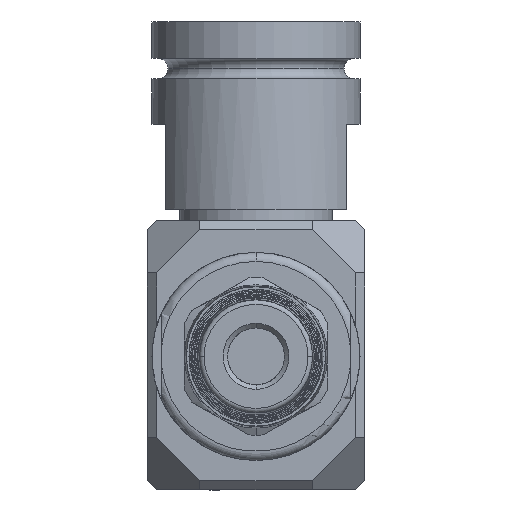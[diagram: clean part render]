
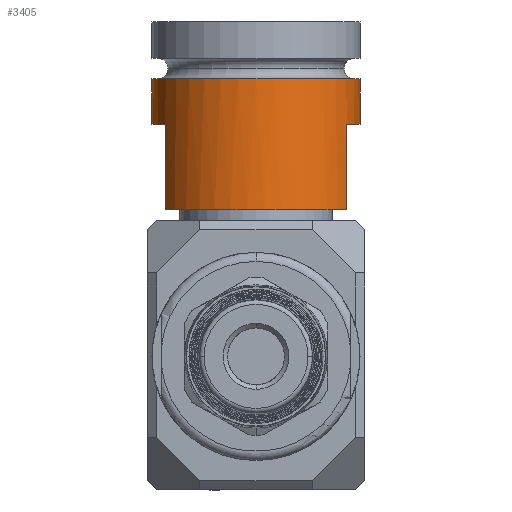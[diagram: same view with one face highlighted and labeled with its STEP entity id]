
A CAD part, front view. The second image highlights one B-rep face of the part: STEP entity #3405.
In plain terms, the highlighted cylindrical face has radius 11.62 mm (diameter 23.241 mm), a partial arc.
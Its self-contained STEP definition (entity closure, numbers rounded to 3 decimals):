
#140 = DIRECTION ( 'NONE',  ( 0., 0., -1. ) ) ;
#501 = DIRECTION ( 'NONE',  ( 0., 0., -1. ) ) ;
#806 = EDGE_CURVE ( 'NONE', #8135, #6362, #2698, .T. ) ;
#1244 = ORIENTED_EDGE ( 'NONE', *, *, #806, .T. ) ;
#1265 = CIRCLE ( 'NONE', #10958, 11.621 ) ;
#1318 = DIRECTION ( 'NONE',  ( 0., 0., -1. ) ) ;
#1359 = DIRECTION ( 'NONE',  ( 0., 0., -1. ) ) ;
#1703 = CARTESIAN_POINT ( 'NONE',  ( 11.621, 0., -2.972 ) ) ;
#2335 = CIRCLE ( 'NONE', #13476, 11.621 ) ;
#2698 = LINE ( 'NONE', #8548, #11541 ) ;
#2760 = CARTESIAN_POINT ( 'NONE',  ( -11.621, 0., -2.972 ) ) ;
#3405 = ADVANCED_FACE ( 'NONE', ( #5828 ), #3623, .T. ) ;
#3417 = EDGE_LOOP ( 'NONE', ( #9408, #8934, #4170, #1244, #11571, #3636, #11524, #5752 ) ) ;
#3623 = CYLINDRICAL_SURFACE ( 'NONE', #11565, 11.621 ) ;
#3636 = ORIENTED_EDGE ( 'NONE', *, *, #9069, .F. ) ;
#3767 = CARTESIAN_POINT ( 'NONE',  ( 0., 0., 8.458 ) ) ;
#3985 = DIRECTION ( 'NONE',  ( 1., 0., 0. ) ) ;
#4038 = CARTESIAN_POINT ( 'NONE',  ( -11.621, 0., 2.108 ) ) ;
#4170 = ORIENTED_EDGE ( 'NONE', *, *, #10419, .F. ) ;
#4660 = CARTESIAN_POINT ( 'NONE',  ( 10.16, -5.64, -2.972 ) ) ;
#4663 = CARTESIAN_POINT ( 'NONE',  ( 11.621, 0., 2.108 ) ) ;
#4775 = CARTESIAN_POINT ( 'NONE',  ( 11.621, 0., 8.458 ) ) ;
#4890 = EDGE_CURVE ( 'NONE', #12043, #5250, #14339, .T. ) ;
#4893 = EDGE_CURVE ( 'NONE', #8806, #9895, #1265, .T. ) ;
#5250 = VERTEX_POINT ( 'NONE', #4038 ) ;
#5638 = DIRECTION ( 'NONE',  ( 0., 0., -1. ) ) ;
#5752 = ORIENTED_EDGE ( 'NONE', *, *, #10374, .F. ) ;
#5828 = FACE_OUTER_BOUND ( 'NONE', #3417, .T. ) ;
#5866 = LINE ( 'NONE', #13761, #8747 ) ;
#6362 = VERTEX_POINT ( 'NONE', #11677 ) ;
#6590 = DIRECTION ( 'NONE',  ( 1., 0., 0. ) ) ;
#6903 = DIRECTION ( 'NONE',  ( -1., 0., 0. ) ) ;
#7321 = CARTESIAN_POINT ( 'NONE',  ( 0., 0., -2.972 ) ) ;
#7392 = EDGE_CURVE ( 'NONE', #5250, #7471, #5866, .T. ) ;
#7471 = VERTEX_POINT ( 'NONE', #2760 ) ;
#7874 = DIRECTION ( 'NONE',  ( 0., 0., -1. ) ) ;
#7982 = CARTESIAN_POINT ( 'NONE',  ( 10.16, -5.64, -2.972 ) ) ;
#8105 = CARTESIAN_POINT ( 'NONE',  ( 0., 0., -2.972 ) ) ;
#8135 = VERTEX_POINT ( 'NONE', #14489 ) ;
#8402 = DIRECTION ( 'NONE',  ( 0., 0., -1. ) ) ;
#8548 = CARTESIAN_POINT ( 'NONE',  ( -10.16, -5.64, -2.972 ) ) ;
#8625 = DIRECTION ( 'NONE',  ( 0., 0., -1. ) ) ;
#8747 = VECTOR ( 'NONE', #1318, 1000. ) ;
#8790 = CARTESIAN_POINT ( 'NONE',  ( 0., 0., -12.497 ) ) ;
#8806 = VERTEX_POINT ( 'NONE', #1703 ) ;
#8934 = ORIENTED_EDGE ( 'NONE', *, *, #7392, .T. ) ;
#9069 = EDGE_CURVE ( 'NONE', #9895, #14424, #13953, .T. ) ;
#9363 = CIRCLE ( 'NONE', #10091, 11.621 ) ;
#9408 = ORIENTED_EDGE ( 'NONE', *, *, #4890, .T. ) ;
#9895 = VERTEX_POINT ( 'NONE', #4660 ) ;
#10091 = AXIS2_PLACEMENT_3D ( 'NONE', #8105, #1359, #6903 ) ;
#10374 = EDGE_CURVE ( 'NONE', #12043, #8806, #11529, .T. ) ;
#10419 = EDGE_CURVE ( 'NONE', #8135, #7471, #9363, .T. ) ;
#10883 = CARTESIAN_POINT ( 'NONE',  ( 0., 0., 2.108 ) ) ;
#10958 = AXIS2_PLACEMENT_3D ( 'NONE', #7321, #13077, #3985 ) ;
#11058 = VECTOR ( 'NONE', #140, 1000. ) ;
#11391 = EDGE_CURVE ( 'NONE', #14424, #6362, #2335, .T. ) ;
#11402 = VECTOR ( 'NONE', #5638, 1000. ) ;
#11524 = ORIENTED_EDGE ( 'NONE', *, *, #4893, .F. ) ;
#11529 = LINE ( 'NONE', #4775, #11058 ) ;
#11541 = VECTOR ( 'NONE', #8625, 1000. ) ;
#11565 = AXIS2_PLACEMENT_3D ( 'NONE', #3767, #8402, #13861 ) ;
#11571 = ORIENTED_EDGE ( 'NONE', *, *, #11391, .F. ) ;
#11677 = CARTESIAN_POINT ( 'NONE',  ( -10.16, -5.64, -12.497 ) ) ;
#12043 = VERTEX_POINT ( 'NONE', #4663 ) ;
#12768 = CARTESIAN_POINT ( 'NONE',  ( 10.16, -5.64, -12.497 ) ) ;
#13077 = DIRECTION ( 'NONE',  ( 0., 0., -1. ) ) ;
#13476 = AXIS2_PLACEMENT_3D ( 'NONE', #8790, #7874, #6590 ) ;
#13761 = CARTESIAN_POINT ( 'NONE',  ( -11.621, 0., 8.458 ) ) ;
#13861 = DIRECTION ( 'NONE',  ( 1., 0., 0. ) ) ;
#13865 = AXIS2_PLACEMENT_3D ( 'NONE', #10883, #501, #14209 ) ;
#13953 = LINE ( 'NONE', #7982, #11402 ) ;
#14209 = DIRECTION ( 'NONE',  ( 1., 0., 0. ) ) ;
#14339 = CIRCLE ( 'NONE', #13865, 11.621 ) ;
#14424 = VERTEX_POINT ( 'NONE', #12768 ) ;
#14489 = CARTESIAN_POINT ( 'NONE',  ( -10.16, -5.64, -2.972 ) ) ;
